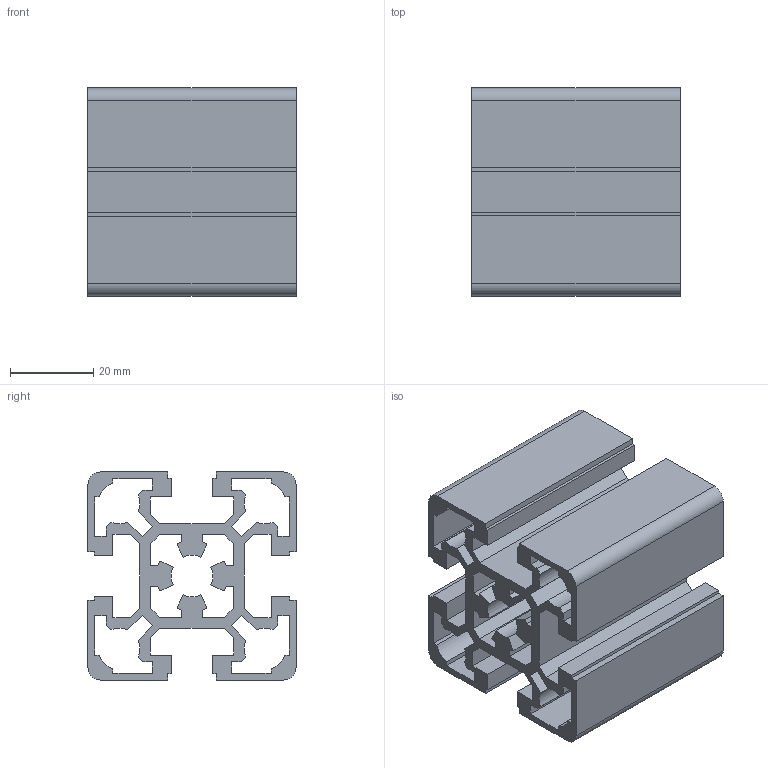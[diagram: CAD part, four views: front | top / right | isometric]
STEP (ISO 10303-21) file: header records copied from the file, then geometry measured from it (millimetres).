
FILE_DESCRIPTION(('no description'),'unknown implementation level');
FILE_NAME('3842993156_141030165.stp',' ',('Bosch Rexroth AG'),('CADClick - KiM GmbH - www.kimweb.de'),'unknown preprocess','ACIS','unknown authorization');
FILE_SCHEMA(('automotive_design'));
Length unit declared in the file: millimetre
Products named in the file (1): 1
Bounding box: 50 x 50 x 50 mm (x, y, z)
Volume: 46684.8 mm3; surface area: 38490.1 mm2
Topology: 1 solids, 1 shells, 170 faces, 504 edges, 336 vertices
Faces by surface type: plane 150, cylinder 20
Entity records: 11212 total; most frequent: STYLED_ITEM 1011, PRESENTATION_STYLE_ASSIGNMENT 1011, CARTESIAN_POINT 1011, COLOUR_RGB 1011, ORIENTED_EDGE 1008, DIRECTION 886, EDGE_CURVE 504, CURVE_STYLE 504
